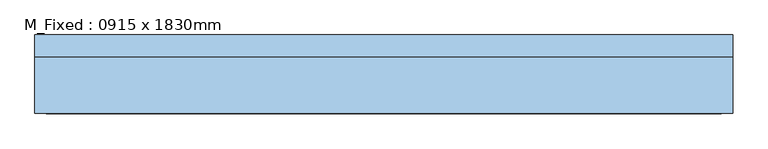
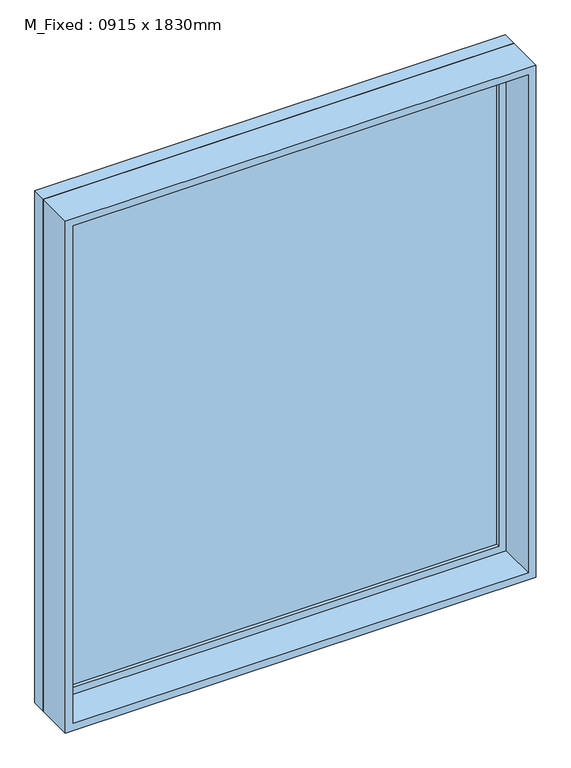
"""IFC4 building model written with IfcOpenShell, lengths in millimetres: window geometry, M_Fixed : 0915 x 1830mm."""

from ifc_helpers import new_model, si_unit, frame, origin, place, context, project, spatial, polyline, outline, extrude, source, transform, mapped, element, save


def m_fixed_0915_x_1830mm_85273121(model_context):
    return source(origin(), model_context, "Body", "SweptSolid", [
        extrude(outline(polyline([(-937.0, 90.5), (937.0, 90.5), (937.0, 78.5), (-937.0, 78.5), (-937.0, 90.5)])), frame((0.0, 0.0, 368.0), z_axis=(0.0, 0.0, 1.0), x_axis=(1.0, 0.0, 0.0)), (0.0, 0.0, 1.0), 2174.0),
        extrude(outline(polyline([(2586.0, -981.0), (324.0, -981.0), (324.0, 981.0), (2586.0, 981.0), (2586.0, -981.0)]), holes=[polyline([(2542.0, -937.0), (2542.0, 937.0), (368.0, 937.0), (368.0, -937.0), (2542.0, -937.0)])]), frame((0.0, 62.5, 0.0), z_axis=(0.0, 1.0, 0.0), x_axis=(0.0, 0.0, 1.0)), (0.0, 0.0, 1.0), 44.0),
        extrude(outline(polyline([(2605.0, -1000.0), (305.0, -1000.0), (305.0, 1000.0), (2605.0, 1000.0), (2605.0, -1000.0)]), holes=[polyline([(2586.0, -981.0), (2586.0, 981.0), (324.0, 981.0), (324.0, -981.0), (2586.0, -981.0)])]), frame((0.0, 62.5, 0.0), z_axis=(0.0, 1.0, 0.0), x_axis=(0.0, 0.0, 1.0)), (0.0, 0.0, 1.0), 63.0),
        extrude(outline(polyline([(2605.0, -1000.0), (305.0, -1000.0), (305.0, 1000.0), (2605.0, 1000.0), (2605.0, -1000.0)]), holes=[polyline([(2573.0, -968.0), (2573.0, 968.0), (337.0, 968.0), (337.0, -968.0), (2573.0, -968.0)])]), frame((0.0, -99.5, 0.0), z_axis=(0.0, 1.0, 0.0), x_axis=(0.0, 0.0, 1.0)), (0.0, 0.0, 1.0), 162.0),
    ])


if __name__ == "__main__":
    model = new_model("IFC4")
    model_context = context("Model", 3, world=origin())
    ifc_project = project(units=[si_unit("LENGTHUNIT", "METRE", prefix="MILLI")], contexts=[model_context])
    site = spatial("IfcSite", under=ifc_project)
    building = spatial("IfcBuilding", under=site)
    placement = place(None, origin())
    m_fixed_0915_x_1830mm_shape = m_fixed_0915_x_1830mm_85273121(model_context)
    element("IfcWindow", 1, ObjectType="M_Fixed : 0915 x 1830mm", at=placement, inside=building, context=model_context, shape_type="MappedRepresentation", body=[
        mapped(m_fixed_0915_x_1830mm_shape, transform((0.0, 0.0, 0.0), x_axis=(1.0, 0.0, 0.0), y_axis=(0.0, 1.0, 0.0), z_axis=(0.0, 0.0, 1.0))),
    ])
    save(model, "model.ifc")
